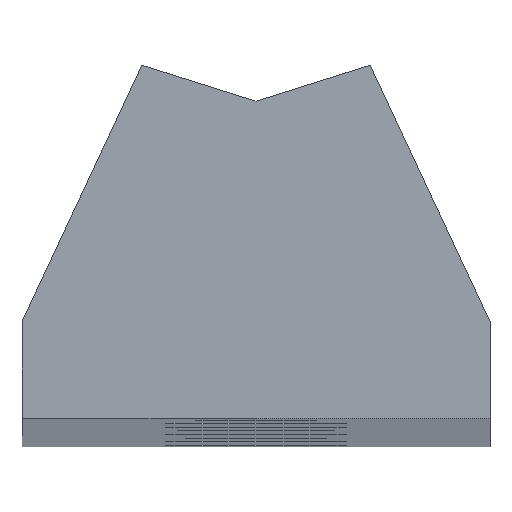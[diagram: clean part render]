
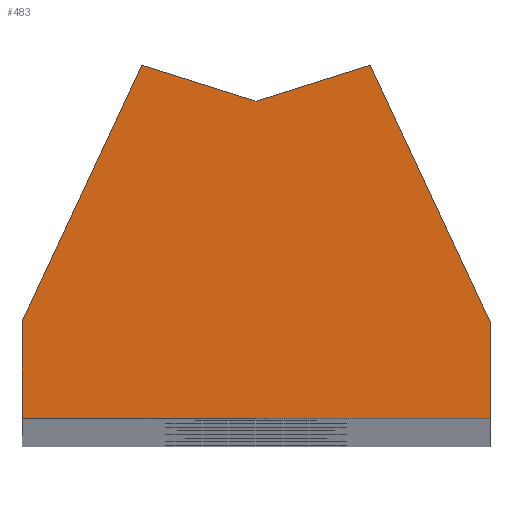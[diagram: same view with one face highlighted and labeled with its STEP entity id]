
A CAD part, top view. The second image highlights one B-rep face of the part: STEP entity #483.
In plain terms, the highlighted planar face has unit normal (0, 0, 1).
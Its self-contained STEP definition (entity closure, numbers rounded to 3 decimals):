
#17 = EDGE_CURVE ( 'NONE', #508, #760, #639, .T. ) ;
#21 = DIRECTION ( 'NONE',  ( -0.423, 0.906, 0. ) ) ;
#56 = DIRECTION ( 'NONE',  ( -0.423, -0.906, 0. ) ) ;
#58 = DIRECTION ( 'NONE',  ( 1., 0., 0. ) ) ;
#68 = CARTESIAN_POINT ( 'NONE',  ( -8.5, 3.495, 299.75 ) ) ;
#127 = EDGE_LOOP ( 'NONE', ( #615, #658, #693, #757, #269, #518, #395 ) ) ;
#154 = LINE ( 'NONE', #879, #804 ) ;
#170 = CARTESIAN_POINT ( 'NONE',  ( -4.15, 12.823, 299.75 ) ) ;
#234 = AXIS2_PLACEMENT_3D ( 'NONE', #1010, #535, #454 ) ;
#247 = VECTOR ( 'NONE', #778, 1000. ) ;
#269 = ORIENTED_EDGE ( 'NONE', *, *, #601, .T. ) ;
#270 = VECTOR ( 'NONE', #553, 1000. ) ;
#272 = CARTESIAN_POINT ( 'NONE',  ( -8.5, 3.495, 299.75 ) ) ;
#286 = FACE_OUTER_BOUND ( 'NONE', #127, .T. ) ;
#300 = LINE ( 'NONE', #770, #247 ) ;
#301 = LINE ( 'NONE', #953, #653 ) ;
#333 = CARTESIAN_POINT ( 'NONE',  ( 0., 11.515, 299.75 ) ) ;
#336 = EDGE_CURVE ( 'NONE', #749, #391, #154, .T. ) ;
#353 = EDGE_CURVE ( 'NONE', #916, #431, #398, .T. ) ;
#362 = LINE ( 'NONE', #746, #446 ) ;
#374 = CARTESIAN_POINT ( 'NONE',  ( 4.15, 12.823, 299.75 ) ) ;
#375 = CARTESIAN_POINT ( 'NONE',  ( -8.5, 0., 299.75 ) ) ;
#387 = CARTESIAN_POINT ( 'NONE',  ( 4.15, 12.823, 299.75 ) ) ;
#391 = VERTEX_POINT ( 'NONE', #272 ) ;
#395 = ORIENTED_EDGE ( 'NONE', *, *, #353, .T. ) ;
#397 = CARTESIAN_POINT ( 'NONE',  ( 8.5, 3.495, 299.75 ) ) ;
#398 = LINE ( 'NONE', #387, #703 ) ;
#431 = VERTEX_POINT ( 'NONE', #333 ) ;
#446 = VECTOR ( 'NONE', #21, 1000. ) ;
#454 = DIRECTION ( 'NONE',  ( 1., 0., 0. ) ) ;
#483 = ADVANCED_FACE ( 'NONE', ( #286 ), #685, .T. ) ;
#508 = VERTEX_POINT ( 'NONE', #375 ) ;
#518 = ORIENTED_EDGE ( 'NONE', *, *, #769, .T. ) ;
#535 = DIRECTION ( 'NONE',  ( 0., 0., 1. ) ) ;
#553 = DIRECTION ( 'NONE',  ( 0., -1., 0. ) ) ;
#568 = LINE ( 'NONE', #68, #270 ) ;
#601 = EDGE_CURVE ( 'NONE', #760, #619, #301, .T. ) ;
#605 = CARTESIAN_POINT ( 'NONE',  ( 8.5, 0., 299.75 ) ) ;
#615 = ORIENTED_EDGE ( 'NONE', *, *, #919, .T. ) ;
#619 = VERTEX_POINT ( 'NONE', #397 ) ;
#632 = DIRECTION ( 'NONE',  ( 0., 1., 0. ) ) ;
#639 = LINE ( 'NONE', #870, #915 ) ;
#653 = VECTOR ( 'NONE', #632, 1000. ) ;
#658 = ORIENTED_EDGE ( 'NONE', *, *, #336, .T. ) ;
#685 = PLANE ( 'NONE',  #234 ) ;
#693 = ORIENTED_EDGE ( 'NONE', *, *, #1014, .T. ) ;
#703 = VECTOR ( 'NONE', #711, 1000. ) ;
#711 = DIRECTION ( 'NONE',  ( -0.954, -0.301, 0. ) ) ;
#746 = CARTESIAN_POINT ( 'NONE',  ( 8.5, 3.495, 299.75 ) ) ;
#749 = VERTEX_POINT ( 'NONE', #170 ) ;
#757 = ORIENTED_EDGE ( 'NONE', *, *, #17, .T. ) ;
#760 = VERTEX_POINT ( 'NONE', #605 ) ;
#769 = EDGE_CURVE ( 'NONE', #619, #916, #362, .T. ) ;
#770 = CARTESIAN_POINT ( 'NONE',  ( 0., 11.515, 299.75 ) ) ;
#778 = DIRECTION ( 'NONE',  ( -0.954, 0.301, 0. ) ) ;
#804 = VECTOR ( 'NONE', #56, 1000. ) ;
#870 = CARTESIAN_POINT ( 'NONE',  ( -8.5, 0., 299.75 ) ) ;
#879 = CARTESIAN_POINT ( 'NONE',  ( -4.15, 12.823, 299.75 ) ) ;
#915 = VECTOR ( 'NONE', #58, 1000. ) ;
#916 = VERTEX_POINT ( 'NONE', #374 ) ;
#919 = EDGE_CURVE ( 'NONE', #431, #749, #300, .T. ) ;
#953 = CARTESIAN_POINT ( 'NONE',  ( 8.5, 0., 299.75 ) ) ;
#1010 = CARTESIAN_POINT ( 'NONE',  ( 0., 0., 299.75 ) ) ;
#1014 = EDGE_CURVE ( 'NONE', #391, #508, #568, .T. ) ;
